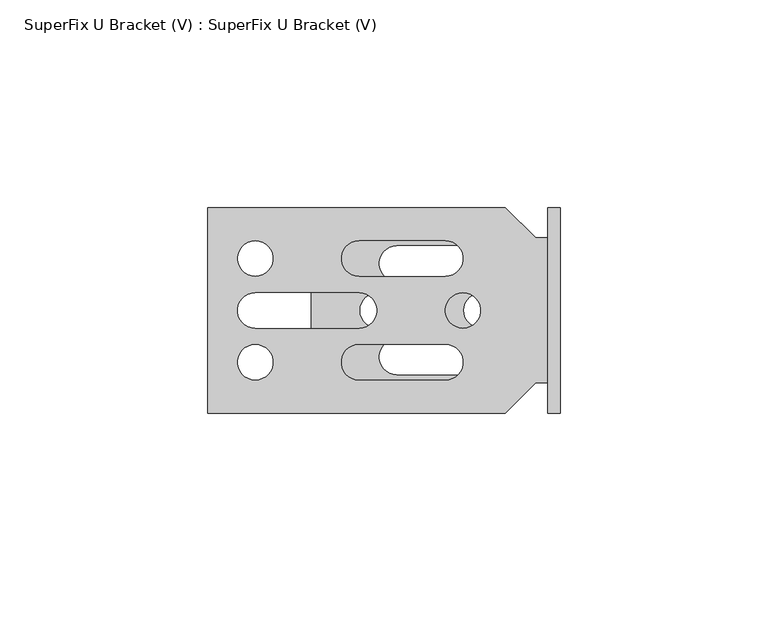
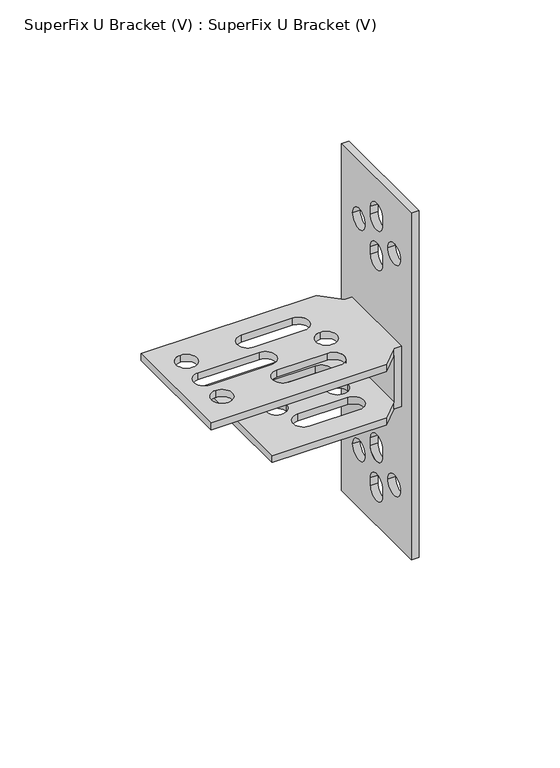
"""IFC4 building model written with IfcOpenShell, lengths in millimetres: valve geometry, SuperFix U Bracket (V) : SuperFix U Bracket (V)."""

import ifcopenshell
import ifcopenshell.guid

model = None  # the IFC model being written
_history = None  # IfcOwnerHistory: only IFC2X3 demands one
_inside = {}  # id of a spatial element -> (the spatial element, [elements in it])
_under = {}  # id of a project, library or spatial element -> (it, [spatial elements below it])
_declared = {}  # id of a project -> (the project, [libraries it declares])
_typed = {}  # id of a type object -> (the type object, [elements of that type])
_made_of = {}  # id of a material, layer set ... -> (it, [elements and type objects made of it])


def new_model(schema):
    """Start an empty IFC model of exactly this schema.

    Asked for "IFC4X3", IfcOpenShell would pick the latest addendum, in which some entities
    have other attributes; the version numbers below select the first issue.
    IFC2X3 requires an IfcOwnerHistory on every rooted entity: one is made here for all.
    """
    global model, _history
    if schema == "IFC4X3":
        model = ifcopenshell.file(schema_version=(4, 3, 0, 0))
    else:
        model = ifcopenshell.file(schema=schema)
    _inside.clear()
    _under.clear()
    _declared.clear()
    _typed.clear()
    _made_of.clear()
    _history = None
    if model.schema == "IFC2X3":
        org = make("IfcOrganization", Name="unknown")
        user = make(
            "IfcPersonAndOrganization",
            ThePerson=make("IfcPerson", FamilyName="unknown"),
            TheOrganization=org,
        )
        app = make(
            "IfcApplication",
            ApplicationDeveloper=org,
            Version="unknown",
            ApplicationFullName="unknown",
            ApplicationIdentifier="unknown",
        )
        _history = make(
            "IfcOwnerHistory",
            OwningUser=user,
            OwningApplication=app,
            ChangeAction="ADDED",
            CreationDate=0,
        )
    return model


def make(cls, **values):
    """One entity of the class cls with the attributes given. An attribute that is None is left unset."""
    return model.create_entity(
        cls, **{name: value for name, value in values.items() if value is not None}
    )


def rooted(cls, **values):
    """An entity with a GlobalId (a new one), such as an element, a storey or a relation."""
    return make(cls, GlobalId=ifcopenshell.guid.new(), OwnerHistory=_history, **values)


def si_unit(unit_type, name, prefix=None):
    """IfcSIUnit, for example si_unit("LENGTHUNIT", "METRE", prefix="MILLI")."""
    return make("IfcSIUnit", UnitType=unit_type, Prefix=prefix, Name=name)


def assignment(units):
    """IfcUnitAssignment: the units of a project."""
    return None if units is None else make("IfcUnitAssignment", Units=units)


def point(xyz):
    """IfcCartesianPoint."""
    return None if xyz is None else make("IfcCartesianPoint", Coordinates=xyz)


def direction(xyz):
    """IfcDirection."""
    return None if xyz is None else make("IfcDirection", DirectionRatios=xyz)


def frame(location, z_axis=None, x_axis=None):
    """IfcAxis2Placement3D, a coordinate frame: its origin and axes. An axis left out is left unset."""
    return make(
        "IfcAxis2Placement3D",
        Location=point(location),
        Axis=direction(z_axis),
        RefDirection=direction(x_axis),
    )


def frame_2d(location, x_axis=None):
    """IfcAxis2Placement2D, a coordinate frame in the plane: its origin and x axis."""
    return make(
        "IfcAxis2Placement2D", Location=point(location), RefDirection=direction(x_axis)
    )


def origin():
    """The frame at (0, 0, 0) with its axes left unset."""
    return frame((0.0, 0.0, 0.0))


def place(relative_to, where):
    """IfcLocalPlacement: puts the frame where relative to a parent placement (None: the world)."""
    return make(
        "IfcLocalPlacement", PlacementRelTo=relative_to, RelativePlacement=where
    )


def context(
    kind, dimensions, precision=None, world=None, true_north=None, identifier=None
):
    """IfcGeometricRepresentationContext, for example the 3D "Model" context."""
    return make(
        "IfcGeometricRepresentationContext",
        ContextIdentifier=identifier,
        ContextType=kind,
        CoordinateSpaceDimension=dimensions,
        Precision=precision,
        WorldCoordinateSystem=world,
        TrueNorth=true_north,
    )


def project(units=None, contexts=None):
    """IfcProject with its units and contexts."""
    return rooted(
        "IfcProject",
        Name="project",
        RepresentationContexts=contexts,
        UnitsInContext=assignment(units),
    )


def spatial(cls, under=None, at=None, **own):
    """A site, building, storey or space (cls), placed at a placement, below another one or the project."""
    s = rooted(cls, ObjectPlacement=at, **own)
    if under is not None:
        _under.setdefault(under.id(), (under, []))[1].append(s)
    return s


def polyline(points):
    """IfcPolyline through the points."""
    return make("IfcPolyline", Points=[point(p) for p in points])


def circle_curve(where, radius):
    """IfcCircle in the frame where."""
    return make("IfcCircle", Position=where, Radius=radius)


def trimmed(basis, trim1, trim2, sense, master):
    """IfcTrimmedCurve: the piece of a basis curve between two trims."""
    return make(
        "IfcTrimmedCurve",
        BasisCurve=basis,
        Trim1=trim1,
        Trim2=trim2,
        SenseAgreement=sense,
        MasterRepresentation=master,
    )


def segment(curve, same_sense, transition):
    """IfcCompositeCurveSegment."""
    return make(
        "IfcCompositeCurveSegment",
        Transition=transition,
        SameSense=same_sense,
        ParentCurve=curve,
    )


def composite_curve(segments, self_intersect=None):
    """IfcCompositeCurve: segments joined end to end."""
    return make("IfcCompositeCurve", Segments=segments, SelfIntersect=self_intersect)


def outline(outer, holes=None, kind="AREA"):
    """IfcArbitraryClosedProfileDef: a profile drawn as a closed curve; with holes, ...WithVoids."""
    if holes is None:
        return make("IfcArbitraryClosedProfileDef", ProfileType=kind, OuterCurve=outer)
    return make(
        "IfcArbitraryProfileDefWithVoids",
        ProfileType=kind,
        OuterCurve=outer,
        InnerCurves=holes,
    )


def extrude(swept, where, along, depth):
    """IfcExtrudedAreaSolid: the profile swept, set in the frame where, extruded along a direction by depth."""
    return make(
        "IfcExtrudedAreaSolid",
        SweptArea=swept,
        Position=where,
        ExtrudedDirection=direction(along),
        Depth=depth,
    )


def shape(context_of_items, identifier, shape_type, items):
    """IfcShapeRepresentation: the items that make up one representation, for example the "Body"."""
    return make(
        "IfcShapeRepresentation",
        ContextOfItems=context_of_items,
        RepresentationIdentifier=identifier,
        RepresentationType=shape_type,
        Items=items,
    )


def source(mapping_origin, context_of_items, identifier, shape_type, items):
    """IfcRepresentationMap: a shape defined once, which mapped items show again and again."""
    return make(
        "IfcRepresentationMap",
        MappingOrigin=mapping_origin,
        MappedRepresentation=shape(context_of_items, identifier, shape_type, items),
    )


def transform(
    local_origin,
    x_axis=None,
    y_axis=None,
    z_axis=None,
    scale=None,
    scale2=None,
    scale3=None,
    uniform=True,
):
    """IfcCartesianTransformationOperator3D, or its non-uniform kind. x_axis, y_axis, z_axis: its Axis1, 2, 3."""
    if uniform:
        return make(
            "IfcCartesianTransformationOperator3D",
            Axis1=direction(x_axis),
            Axis2=direction(y_axis),
            LocalOrigin=point(local_origin),
            Scale=scale,
            Axis3=direction(z_axis),
        )
    return make(
        "IfcCartesianTransformationOperator3DnonUniform",
        Axis1=direction(x_axis),
        Axis2=direction(y_axis),
        LocalOrigin=point(local_origin),
        Scale=scale,
        Axis3=direction(z_axis),
        Scale2=scale2,
        Scale3=scale3,
    )


def mapped(mapping_source, mapping_target):
    """IfcMappedItem: shows the shape of a source again, moved by a transform."""
    return make(
        "IfcMappedItem", MappingSource=mapping_source, MappingTarget=mapping_target
    )


def made_of(thing, what):
    """Note that an element or type object is made of a material, layer set ...; save() writes the relation."""
    if what is not None:
        _made_of.setdefault(what.id(), (what, []))[1].append(thing)
    return thing


def element(
    cls,
    number,
    at=None,
    inside=None,
    cuts=None,
    type_object=None,
    material=None,
    context=None,
    identifier="Body",
    shape_type=None,
    held_by="IfcProductDefinitionShape",
    body=None,
    shapes=None,
    **own,
):
    """One element of the class cls, such as IfcWall. Its Tag is "e" and its number.

    at: its placement. inside: the storey or other place that contains it. cuts: it is an
    opening in that element (IfcRelVoidsElement). A single representation is given by context,
    identifier, shape_type and body (its items); several are given by shapes. held_by: the class
    of the entity that holds the representations. save() writes the other relations.
    """
    e = rooted(cls, Tag="e%d" % number, ObjectPlacement=at, **own)
    if body is not None:
        shapes = [shape(context, identifier, shape_type, body)]
    if shapes is not None:
        e.Representation = make(held_by, Representations=shapes)
    if inside is not None:
        _inside.setdefault(inside.id(), (inside, []))[1].append(e)
    if cuts is not None:
        rooted(
            "IfcRelVoidsElement", RelatingBuildingElement=cuts, RelatedOpeningElement=e
        )
    if type_object is not None:
        _typed.setdefault(type_object.id(), (type_object, []))[1].append(e)
    return made_of(e, material)


def aggregate(whole, parts):
    """IfcRelAggregates: a whole, such as a stair, and the parts it consists of."""
    return rooted("IfcRelAggregates", RelatingObject=whole, RelatedObjects=parts)


def save(model, path):
    """Write the relations noted so far, then the file.

    IfcRelAggregates (storeys below a building ...), IfcRelContainedInSpatialStructure (elements
    in a storey), IfcRelDefinesByType, IfcRelAssociatesMaterial and IfcRelDeclares: one each for
    every whole, place, type object, material and project.
    """
    for whole, parts in _under.values():
        aggregate(whole, parts)
    for where, things in _inside.values():
        rooted(
            "IfcRelContainedInSpatialStructure",
            RelatedElements=things,
            RelatingStructure=where,
        )
    for kind, things in _typed.values():
        rooted("IfcRelDefinesByType", RelatedObjects=things, RelatingType=kind)
    for what, things in _made_of.values():
        rooted("IfcRelAssociatesMaterial", RelatedObjects=things, RelatingMaterial=what)
    for by, libraries in _declared.values():
        rooted("IfcRelDeclares", RelatingContext=by, RelatedDefinitions=libraries)
    model.write(path)


def plane_surface(at):
    """IfcPlane: the flat surface through the origin of the frame at, square to its z axis."""
    return make("IfcPlane", Position=at)


def revolved_surface(curve, axis_point, axis_direction):
    """IfcSurfaceOfRevolution: the curve turned about the line through axis_point along axis_direction."""
    return make(
        "IfcSurfaceOfRevolution",
        SweptCurve=make("IfcArbitraryOpenProfileDef", ProfileType="CURVE", Curve=curve),
        AxisPosition=make("IfcAxis1Placement", Location=point(axis_point), Axis=direction(axis_direction)),
    )


def advanced_brep(points, edges, surfaces, faces):
    """IfcAdvancedBrep: a solid bounded by faces that lie on surfaces and meet in shared edges.

    An edge is (start, end): straight between two places in points (the first is 0);
    or (start, end, curve); or (start, end, curve, False) where it runs against its curve.
    A face is (place in surfaces, loops), or (place, loops, False) where it looks against
    its surface's normal. A loop lists edges by number (the first is 1), with a minus sign
    where the edge is run from its end to its start. The first loop is the outer one.
    """
    corners = [point(p) for p in points]
    vertices = [make("IfcVertexPoint", VertexGeometry=c) for c in corners]
    made = []
    for start, end, *more in edges:
        made.append(
            make(
                "IfcEdgeCurve",
                EdgeStart=vertices[start],
                EdgeEnd=vertices[end],
                EdgeGeometry=more[0] if more else make("IfcPolyline", Points=[corners[start], corners[end]]),
                SameSense=more[1] if len(more) > 1 else True,
            )
        )
    hull = []
    for where, loops, *sense in faces:
        bounds = []
        for j, loop in enumerate(loops):
            ring = [make("IfcOrientedEdge", EdgeElement=made[abs(k) - 1], Orientation=k > 0) for k in loop]
            bounds.append(
                make(
                    "IfcFaceOuterBound" if j == 0 else "IfcFaceBound",
                    Bound=make("IfcEdgeLoop", EdgeList=ring),
                    Orientation=True,
                )
            )
        hull.append(make("IfcAdvancedFace", Bounds=bounds, FaceSurface=surfaces[where], SameSense=sense[0] if sense else True))
    return make("IfcAdvancedBrep", Outer=make("IfcClosedShell", CfsFaces=hull))


def superfix_u_bracket_v_superfix_u_bracket_v_d2fbcba1(model_context):
    return source(origin(), model_context, "Body", "SolidModel", [
        advanced_brep(
        [(-60.0, 24.75, 3.0), (-13.2769513, 24.75, 3.0), (-13.2769513, 24.75, 0.0), (-60.0, 24.75, 0.0), (-85.0, 24.75, 26.0), (-13.2769513, 24.75, 26.0), (-13.2769513, 24.75, 23.0), (-85.0, 24.75, 23.0), (-85.0, -24.75, 23.0), (-13.2769513, -24.75, 23.0), (-13.2769513, -24.75, 26.0), (-85.0, -24.75, 26.0), (-60.0, -24.75, 0.0), (-13.2769513, -24.75, 0.0), (-13.2769513, -24.75, 3.0), (-60.0, -24.75, 3.0), (-6.0, 17.4730487, 23.0), (-6.0, -17.4601422, 23.0), (-23.5, 4.25, 23.0), (-23.5, -4.25, 23.0), (-73.5, -8.25, 23.0), (-73.5, -16.75, 23.0), (-73.5, 16.75, 23.0), (-73.5, 8.25, 23.0), (-27.7293627, -16.7623453, 23.0), (-27.7293627, -8.2417698, 23.0), (-48.5, -8.2417698, 23.0), (-48.5, -16.7623453, 23.0), (-27.7293627, 8.2376547, 23.0), (-27.7293627, 16.7582302, 23.0), (-48.5, 16.7582302, 23.0), (-48.5, 8.2376547, 23.0), (-48.5, -4.2602877, 23.0), (-48.5, 4.2602877, 23.0), (-73.5, 4.2602877, 23.0), (-73.5, -4.2602877, 23.0), (-5.9870936, -17.4601422, 26.0), (-3.0, -17.4601422, 26.0), (-3.0, 17.4601422, 26.0), (-5.9870936, 17.4601422, 26.0), (-23.5, -4.25, 26.0), (-23.5, 4.25, 26.0), (-73.5, -16.75, 26.0), (-73.5, -8.25, 26.0), (-73.5, 8.25, 26.0), (-73.5, 16.75, 26.0), (-48.5, -16.7623453, 26.0), (-48.5, -8.2417698, 26.0), (-27.7293627, -8.2417698, 26.0), (-27.7293627, -16.7623453, 26.0), (-48.5, 8.2376547, 26.0), (-48.5, 16.7582302, 26.0), (-27.7293627, 16.7582302, 26.0), (-27.7293627, 8.2376547, 26.0), (-73.5, -4.2602877, 26.0), (-73.5, 4.2602877, 26.0), (-48.5, 4.2602877, 26.0), (-48.5, -4.2602877, 26.0), (-3.0, -17.4601422, 0.0), (-3.0, 17.4601422, 0.0), (-5.9870936, 17.4601422, 0.0), (-5.9870936, -17.4601422, 0.0), (-39.7659437, 0.0, 0.0), (-48.2659437, 0.0, 0.0), (-14.7659437, 0.0, 0.0), (-23.2659437, 0.0, 0.0), (-19.0159437, 15.5178015, 0.0), (-39.373508, 15.5178015, 0.0), (-39.373508, 7.0178015, 0.0), (-19.0159437, 7.0178015, 0.0), (-19.0159437, -15.5178015, 0.0), (-19.0159437, -7.0178015, 0.0), (-39.373508, -7.0178015, 0.0), (-39.373508, -15.5178015, 0.0), (-5.9935468, -17.4665954, 3.0), (-6.0, 17.4730487, 3.0), (-48.2659437, 0.0, 3.0), (-39.7659437, 0.0, 3.0), (-23.2659437, 0.0, 3.0), (-14.7659437, 0.0, 3.0), (-19.0159437, 7.0178015, 3.0), (-39.373508, 7.0178015, 3.0), (-39.373508, 15.5178015, 3.0), (-19.0159437, 15.5178015, 3.0), (-39.373508, -15.5178015, 3.0), (-39.373508, -7.0178015, 3.0), (-19.0159437, -7.0178015, 3.0), (-19.0159437, -15.5178015, 3.0)],
        [
            (0, 1),
            (1, 2),
            (2, 3),
            (3, 0),
            (4, 5),
            (5, 6),
            (6, 7),
            (7, 4),
            (8, 9),
            (9, 10),
            (10, 11),
            (11, 8),
            (12, 13),
            (13, 14),
            (14, 15),
            (15, 12),
            (6, 16),
            (16, 17),
            (17, 9),
            (8, 7),
            (18, 19, circle_curve(frame((-23.5, 0.0, 23.0), z_axis=(0.0, 0.0, 1.0), x_axis=(0.0, 1.0, 0.0)), 4.25)),
            (19, 18, circle_curve(frame((-23.5, 0.0, 23.0), z_axis=(0.0, 0.0, 1.0), x_axis=(0.0, 1.0, 0.0)), 4.25)),
            (20, 21, circle_curve(frame((-73.5, -12.5, 23.0), z_axis=(0.0, 0.0, 1.0), x_axis=(0.0, 1.0, 0.0)), 4.25)),
            (21, 20, circle_curve(frame((-73.5, -12.5, 23.0), z_axis=(0.0, 0.0, 1.0), x_axis=(0.0, 1.0, 0.0)), 4.25)),
            (22, 23, circle_curve(frame((-73.5, 12.5, 23.0), z_axis=(0.0, 0.0, 1.0), x_axis=(0.0, 1.0, 0.0)), 4.25)),
            (23, 22, circle_curve(frame((-73.5, 12.5, 23.0), z_axis=(0.0, 0.0, 1.0), x_axis=(0.0, 1.0, 0.0)), 4.25)),
            (24, 25, circle_curve(frame((-27.7293627, -12.5020575, 23.0), z_axis=(0.0, 0.0, 1.0), x_axis=(0.0, 1.0, 0.0)), 4.2602877)),
            (25, 26),
            (26, 27, circle_curve(frame((-48.5, -12.5020575, 23.0), z_axis=(0.0, 0.0, 1.0), x_axis=(0.0, 1.0, 0.0)), 4.2602877)),
            (27, 24),
            (28, 29, circle_curve(frame((-27.7293627, 12.4979425, 23.0), z_axis=(0.0, 0.0, 1.0), x_axis=(0.0, 1.0, 0.0)), 4.2602877)),
            (29, 30),
            (30, 31, circle_curve(frame((-48.5, 12.4979425, 23.0), z_axis=(0.0, 0.0, 1.0), x_axis=(0.0, 1.0, 0.0)), 4.2602877)),
            (31, 28),
            (32, 33, circle_curve(frame((-48.5, 0.0, 23.0), z_axis=(0.0, 0.0, 1.0), x_axis=(0.0, 1.0, 0.0)), 4.2602877)),
            (33, 34),
            (34, 35, circle_curve(frame((-73.5, 0.0, 23.0), z_axis=(0.0, 0.0, 1.0), x_axis=(0.0, 1.0, 0.0)), 4.2602877)),
            (35, 32),
            (11, 4),
            (10, 36),
            (36, 37),
            (37, 38),
            (38, 39),
            (39, 5),
            (40, 41, circle_curve(frame((-23.5, 0.0, 26.0), z_axis=(0.0, 0.0, -1.0), x_axis=(0.0, 1.0, 0.0)), 4.25)),
            (41, 40, circle_curve(frame((-23.5, 0.0, 26.0), z_axis=(0.0, 0.0, -1.0), x_axis=(0.0, 1.0, 0.0)), 4.25)),
            (42, 43, circle_curve(frame((-73.5, -12.5, 26.0), z_axis=(0.0, 0.0, -1.0), x_axis=(0.0, 1.0, 0.0)), 4.25)),
            (43, 42, circle_curve(frame((-73.5, -12.5, 26.0), z_axis=(0.0, 0.0, -1.0), x_axis=(0.0, 1.0, 0.0)), 4.25)),
            (44, 45, circle_curve(frame((-73.5, 12.5, 26.0), z_axis=(0.0, 0.0, -1.0), x_axis=(0.0, 1.0, 0.0)), 4.25)),
            (45, 44, circle_curve(frame((-73.5, 12.5, 26.0), z_axis=(0.0, 0.0, -1.0), x_axis=(0.0, 1.0, 0.0)), 4.25)),
            (46, 47, circle_curve(frame((-48.5, -12.5020575, 26.0), z_axis=(0.0, 0.0, -1.0), x_axis=(0.0, 1.0, 0.0)), 4.2602877)),
            (47, 48),
            (48, 49, circle_curve(frame((-27.7293627, -12.5020575, 26.0), z_axis=(0.0, 0.0, -1.0), x_axis=(0.0, 1.0, 0.0)), 4.2602877)),
            (49, 46),
            (50, 51, circle_curve(frame((-48.5, 12.4979425, 26.0), z_axis=(0.0, 0.0, -1.0), x_axis=(0.0, 1.0, 0.0)), 4.2602877)),
            (51, 52),
            (52, 53, circle_curve(frame((-27.7293627, 12.4979425, 26.0), z_axis=(0.0, 0.0, -1.0), x_axis=(0.0, 1.0, 0.0)), 4.2602877)),
            (53, 50),
            (54, 55, circle_curve(frame((-73.5, 0.0, 26.0), z_axis=(0.0, 0.0, -1.0), x_axis=(0.0, 1.0, 0.0)), 4.2602877)),
            (55, 56),
            (56, 57, circle_curve(frame((-48.5, 0.0, 26.0), z_axis=(0.0, 0.0, -1.0), x_axis=(0.0, 1.0, 0.0)), 4.2602877)),
            (57, 54),
            (37, 58),
            (58, 59),
            (59, 38),
            (2, 60),
            (60, 59),
            (58, 61),
            (61, 13),
            (12, 3),
            (62, 63, circle_curve(frame((-44.0159437, 0.0, 0.0), z_axis=(0.0, 0.0, 1.0), x_axis=(-1.0, 0.0, 0.0)), 4.25)),
            (63, 62, circle_curve(frame((-44.0159437, 0.0, 0.0), z_axis=(0.0, 0.0, 1.0), x_axis=(-1.0, 0.0, 0.0)), 4.25)),
            (64, 65, circle_curve(frame((-19.0159437, 0.0, 0.0), z_axis=(0.0, 0.0, 1.0), x_axis=(-1.0, 0.0, 0.0)), 4.25)),
            (65, 64, circle_curve(frame((-19.0159437, 0.0, 0.0), z_axis=(0.0, 0.0, 1.0), x_axis=(-1.0, 0.0, 0.0)), 4.25)),
            (66, 67),
            (67, 68, circle_curve(frame((-39.373508, 11.2678015, 0.0), z_axis=(0.0, 0.0, 1.0), x_axis=(-1.0, 0.0, 0.0)), 4.25)),
            (68, 69),
            (69, 66, circle_curve(frame((-19.0159437, 11.2678015, 0.0), z_axis=(0.0, 0.0, 1.0), x_axis=(-1.0, 0.0, 0.0)), 4.25)),
            (70, 71, circle_curve(frame((-19.0159437, -11.2678015, 0.0), z_axis=(0.0, 0.0, 1.0), x_axis=(-1.0, 0.0, 0.0)), 4.25)),
            (71, 72),
            (72, 73, circle_curve(frame((-39.373508, -11.2678015, 0.0), z_axis=(0.0, 0.0, 1.0), x_axis=(-1.0, 0.0, 0.0)), 4.25)),
            (73, 70),
            (15, 0),
            (14, 74),
            (74, 75),
            (75, 1),
            (76, 77, circle_curve(frame((-44.0159437, 0.0, 3.0), z_axis=(0.0, 0.0, -1.0), x_axis=(-1.0, 0.0, 0.0)), 4.25)),
            (77, 76, circle_curve(frame((-44.0159437, 0.0, 3.0), z_axis=(0.0, 0.0, -1.0), x_axis=(-1.0, 0.0, 0.0)), 4.25)),
            (78, 79, circle_curve(frame((-19.0159437, 0.0, 3.0), z_axis=(0.0, 0.0, -1.0), x_axis=(-1.0, 0.0, 0.0)), 4.25)),
            (79, 78, circle_curve(frame((-19.0159437, 0.0, 3.0), z_axis=(0.0, 0.0, -1.0), x_axis=(-1.0, 0.0, 0.0)), 4.25)),
            (80, 81),
            (81, 82, circle_curve(frame((-39.373508, 11.2678015, 3.0), z_axis=(0.0, 0.0, -1.0), x_axis=(-1.0, 0.0, 0.0)), 4.25)),
            (82, 83),
            (83, 80, circle_curve(frame((-19.0159437, 11.2678015, 3.0), z_axis=(0.0, 0.0, -1.0), x_axis=(-1.0, 0.0, 0.0)), 4.25)),
            (84, 85, circle_curve(frame((-39.373508, -11.2678015, 3.0), z_axis=(0.0, 0.0, -1.0), x_axis=(-1.0, 0.0, 0.0)), 4.25)),
            (85, 86),
            (86, 87, circle_curve(frame((-19.0159437, -11.2678015, 3.0), z_axis=(0.0, 0.0, -1.0), x_axis=(-1.0, 0.0, 0.0)), 4.25)),
            (87, 84),
            (16, 75),
            (74, 17),
            (41, 18),
            (19, 40),
            (43, 20),
            (21, 42),
            (45, 22),
            (23, 44),
            (49, 24),
            (27, 46),
            (48, 25),
            (47, 26),
            (53, 28),
            (31, 50),
            (52, 29),
            (51, 30),
            (57, 32),
            (35, 54),
            (56, 33),
            (55, 34),
            (74, 61),
            (36, 17),
            (39, 16),
            (75, 60),
            (63, 76),
            (77, 62),
            (65, 78),
            (79, 64),
            (69, 80),
            (83, 66),
            (68, 81),
            (67, 82),
            (73, 84),
            (87, 70),
            (72, 85),
            (71, 86),
        ],
        [
            plane_surface(frame((-85.0, 24.75, 23.0), z_axis=(0.0, 1.0, 0.0), x_axis=(1.0, 0.0, 0.0))),
            plane_surface(frame((-85.0, -24.75, 23.0), z_axis=(0.0, -1.0, 0.0), x_axis=(-1.0, 0.0, 0.0))),
            plane_surface(frame((-6.0, -24.75, 23.0), z_axis=(0.0, 0.0, -1.0), x_axis=(0.0, 1.0, 0.0))),
            plane_surface(frame((-85.0, -24.75, 23.0), z_axis=(-1.0, 0.0, 0.0), x_axis=(0.0, 1.0, 0.0))),
            plane_surface(frame((-85.0, -24.75, 26.0), z_axis=(0.0, 0.0, 1.0), x_axis=(0.0, 1.0, 0.0))),
            plane_surface(frame((-3.0, -24.75, 26.0), z_axis=(1.0, 0.0, 0.0), x_axis=(0.0, 1.0, 0.0))),
            plane_surface(frame((-3.0, -24.75, 0.0), z_axis=(0.0, 0.0, -1.0), x_axis=(0.0, 1.0, 0.0))),
            plane_surface(frame((-60.0, -24.75, 0.0), z_axis=(-1.0, 0.0, 0.0), x_axis=(0.0, 1.0, 0.0))),
            plane_surface(frame((-60.0, -24.75, 3.0), z_axis=(0.0, 0.0, 1.0), x_axis=(0.0, 1.0, 0.0))),
            plane_surface(frame((-6.0, -24.75, 3.0), z_axis=(-1.0, 0.0, 0.0), x_axis=(0.0, 1.0, 0.0))),
            revolved_surface(polyline([(-23.5, 4.25, 23.0), (-23.5, 4.25, 26.0)]), (-23.5, 0.0, 26.0), (0.0, 0.0, -1.0)),
            revolved_surface(polyline([(-73.5, -8.25, 23.0), (-73.5, -8.25, 26.0)]), (-73.5, -12.5, 26.0), (0.0, 0.0, -1.0)),
            revolved_surface(polyline([(-73.5, 16.75, 23.0), (-73.5, 16.75, 26.0)]), (-73.5, 12.5, 26.0), (0.0, 0.0, -1.0)),
            plane_surface(frame((-48.5, -16.7623453, 21.0), z_axis=(0.0, 1.0, 0.0), x_axis=(0.0, 0.0, 1.0))),
            revolved_surface(polyline([(-27.7293627, -8.2417698, 23.0), (-27.7293627, -8.2417698, 26.0)]), (-27.7293627, -12.5020575, 26.0), (0.0, 0.0, -1.0)),
            plane_surface(frame((-27.7293627, -8.2417698, 21.0), z_axis=(0.0, -1.0, 0.0), x_axis=(0.0, 0.0, 1.0))),
            revolved_surface(polyline([(-48.5, -8.2417698, 23.0), (-48.5, -8.2417698, 26.0)]), (-48.5, -12.5020575, 26.0), (0.0, 0.0, -1.0)),
            plane_surface(frame((-48.5, 8.2376547, 21.0), z_axis=(0.0, 1.0, 0.0), x_axis=(0.0, 0.0, 1.0))),
            revolved_surface(polyline([(-27.7293627, 16.7582302, 23.0), (-27.7293627, 16.7582302, 26.0)]), (-27.7293627, 12.4979425, 26.0), (0.0, 0.0, -1.0)),
            plane_surface(frame((-27.7293627, 16.7582302, 21.0), z_axis=(0.0, -1.0, 0.0), x_axis=(0.0, 0.0, 1.0))),
            revolved_surface(polyline([(-48.5, 16.7582302, 23.0), (-48.5, 16.7582302, 26.0)]), (-48.5, 12.4979425, 26.0), (0.0, 0.0, -1.0)),
            plane_surface(frame((-73.5, -4.2602877, 21.0), z_axis=(0.0, 1.0, 0.0), x_axis=(0.0, 0.0, 1.0))),
            revolved_surface(polyline([(-48.5, 4.2602877, 23.0), (-48.5, 4.2602877, 26.0)]), (-48.5, 0.0, 26.0), (0.0, 0.0, -1.0)),
            plane_surface(frame((-48.5, 4.2602877, 21.0), z_axis=(0.0, -1.0, 0.0), x_axis=(0.0, 0.0, 1.0))),
            revolved_surface(polyline([(-73.5, 4.2602877, 23.0), (-73.5, 4.2602877, 26.0)]), (-73.5, 0.0, 26.0), (0.0, 0.0, -1.0)),
            plane_surface(frame((-5.9870936, -17.4601422, 26.0), z_axis=(0.0, -1.0, 0.0), x_axis=(0.0, 0.0, -1.0))),
            plane_surface(frame((-13.2769513, -24.75, 26.0), z_axis=(0.7071067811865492, -0.7071067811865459, 0.0), x_axis=(0.0, 0.0, -1.0))),
            plane_surface(frame((-5.9870936, 17.4601422, 26.0), z_axis=(0.7071067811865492, 0.7071067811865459, 0.0), x_axis=(0.0, 0.0, -1.0))),
            plane_surface(frame((-2.9870936, 17.4601422, 26.0), z_axis=(0.0, 1.0, 0.0), x_axis=(0.0, 0.0, -1.0))),
            revolved_surface(polyline([(-48.2659437, 0.0, 3.0), (-48.2659437, 0.0, 0.0)]), (-44.0159437, 0.0, 0.0), (0.0, 0.0, 1.0)),
            revolved_surface(polyline([(-23.2659437, 0.0, 3.0), (-23.2659437, 0.0, 0.0)]), (-19.0159437, 0.0, 0.0), (0.0, 0.0, 1.0)),
            revolved_surface(polyline([(-23.2659437, 11.2678015, 3.0), (-23.2659437, 11.2678015, 0.0)]), (-19.0159437, 11.2678015, 0.0), (0.0, 0.0, 1.0)),
            plane_surface(frame((-19.0159437, 7.0178015, 5.0), z_axis=(0.0, 1.0, 0.0), x_axis=(0.0, 0.0, -1.0))),
            revolved_surface(polyline([(-43.623508, 11.2678015, 3.0), (-43.623508, 11.2678015, 0.0)]), (-39.373508, 11.2678015, 0.0), (0.0, 0.0, 1.0)),
            plane_surface(frame((-39.373508, 15.5178015, 5.0), z_axis=(0.0, -1.0, 0.0), x_axis=(0.0, 0.0, -1.0))),
            plane_surface(frame((-19.0159437, -15.5178015, 5.0), z_axis=(0.0, 1.0, 0.0), x_axis=(0.0, 0.0, -1.0))),
            revolved_surface(polyline([(-43.623508, -11.2678015, 3.0), (-43.623508, -11.2678015, 0.0)]), (-39.373508, -11.2678015, 0.0), (0.0, 0.0, 1.0)),
            plane_surface(frame((-39.373508, -7.0178015, 5.0), z_axis=(0.0, -1.0, 0.0), x_axis=(0.0, 0.0, -1.0))),
            revolved_surface(polyline([(-23.2659437, -11.2678015, 3.0), (-23.2659437, -11.2678015, 0.0)]), (-19.0159437, -11.2678015, 0.0), (0.0, 0.0, 1.0)),
        ],
        [
            (0, [[1, 2, 3, 4]]),
            (0, [[5, 6, 7, 8]]),
            (1, [[9, 10, 11, 12]]),
            (1, [[13, 14, 15, 16]]),
            (2, [[-7, 17, 18, 19, -9, 20], [21, 22], [23, 24], [25, 26], [27, 28, 29, 30], [31, 32, 33, 34], [35, 36, 37, 38]]),
            (3, [[-20, -12, 39, -8]]),
            (4, [[-11, 40, 41, 42, 43, 44, -5, -39], [45, 46], [47, 48], [49, 50], [51, 52, 53, 54], [55, 56, 57, 58], [59, 60, 61, 62]]),
            (5, [[63, 64, 65, -42]]),
            (6, [[-3, 66, 67, -64, 68, 69, -13, 70], [71, 72], [73, 74], [75, 76, 77, 78], [79, 80, 81, 82]]),
            (7, [[-70, -16, 83, -4]]),
            (8, [[-15, 84, 85, 86, -1, -83], [87, 88], [89, 90], [91, 92, 93, 94], [95, 96, 97, 98]]),
            (9, [[99, -85, 100, -18]]),
            (10, [[-46, 101, -22, 102]]),
            (10, [[-21, -101, -45, -102]]),
            (11, [[-48, 103, -24, 104]]),
            (11, [[-23, -103, -47, -104]]),
            (12, [[-50, 105, -26, 106]]),
            (12, [[-25, -105, -49, -106]]),
            (13, [[-54, 107, -30, 108]]),
            (14, [[-53, 109, -27, -107]]),
            (15, [[-52, 110, -28, -109]]),
            (16, [[-29, -110, -51, -108]]),
            (17, [[-58, 111, -34, 112]]),
            (18, [[-57, 113, -31, -111]]),
            (19, [[-56, 114, -32, -113]]),
            (20, [[-33, -114, -55, -112]]),
            (21, [[-62, 115, -38, 116]]),
            (22, [[-61, 117, -35, -115]]),
            (23, [[-60, 118, -36, -117]]),
            (24, [[-37, -118, -59, -116]]),
            (25, [[-100, 119, -68, -63, -41, 120]]),
            (26, [[-40, -10, -19, -120]]),
            (26, [[-84, -14, -69, -119]]),
            (27, [[-17, -6, -44, 121]]),
            (27, [[-66, -2, -86, 122]]),
            (28, [[-43, -65, -67, -122, -99, -121]]),
            (29, [[-72, 123, -88, 124]]),
            (29, [[-87, -123, -71, -124]]),
            (30, [[-74, 125, -90, 126]]),
            (30, [[-89, -125, -73, -126]]),
            (31, [[-78, 127, -94, 128]]),
            (32, [[-77, 129, -91, -127]]),
            (33, [[-76, 130, -92, -129]]),
            (34, [[-93, -130, -75, -128]]),
            (35, [[-82, 131, -98, 132]]),
            (36, [[-81, 133, -95, -131]]),
            (37, [[-80, 134, -96, -133]]),
            (38, [[-97, -134, -79, -132]]),
        ],
    ),
        extrude(outline(polyline([(24.75, 88.0), (24.75, -62.0), (-24.75, -62.0), (-24.75, 88.0), (24.75, 88.0)]), holes=[composite_curve([segment(trimmed(circle_curve(frame_2d((-12.5, -37.0)), 4.4), [point((-8.1, -37.0))], [point((-16.9, -37.0))], True, "CARTESIAN"), True, "CONTINUOUS"), segment(trimmed(circle_curve(frame_2d((-12.5, -37.0)), 4.4), [point((-16.9, -37.0))], [point((-8.1, -37.0))], True, "CARTESIAN"), True, "CONTINUOUS")], self_intersect=False), composite_curve([segment(trimmed(circle_curve(frame_2d((12.5, -37.0)), 4.4), [point((16.9, -37.0))], [point((8.1, -37.0))], True, "CARTESIAN"), True, "CONTINUOUS"), segment(trimmed(circle_curve(frame_2d((12.5, -37.0)), 4.4), [point((8.1, -37.0))], [point((16.9, -37.0))], True, "CARTESIAN"), True, "CONTINUOUS")], self_intersect=False), composite_curve([segment(trimmed(circle_curve(frame_2d((12.5, 63.0)), 4.4), [point((16.9, 63.0))], [point((8.1, 63.0))], True, "CARTESIAN"), True, "CONTINUOUS"), segment(trimmed(circle_curve(frame_2d((12.5, 63.0)), 4.4), [point((8.1, 63.0))], [point((16.9, 63.0))], True, "CARTESIAN"), True, "CONTINUOUS")], self_intersect=False), composite_curve([segment(trimmed(circle_curve(frame_2d((-12.5, 63.0)), 4.4), [point((-8.1, 63.0))], [point((-16.9, 63.0))], True, "CARTESIAN"), True, "CONTINUOUS"), segment(trimmed(circle_curve(frame_2d((-12.5, 63.0)), 4.4), [point((-16.9, 63.0))], [point((-8.1, 63.0))], True, "CARTESIAN"), True, "CONTINUOUS")], self_intersect=False), composite_curve([segment(trimmed(circle_curve(frame_2d((0.0, -27.0)), 4.2629479), [point((4.2525926, -26.7030464))], [point((-4.2525926, -26.7030464))], True, "CARTESIAN"), True, "CONTINUOUS"), segment(polyline([(-4.2525926, -26.7030464), (-4.2525926, -30.0)]), True, "CONTINUOUS"), segment(trimmed(circle_curve(frame_2d((0.0, -30.0)), 4.2525926), [point((-4.2525926, -30.0))], [point((4.2525926, -30.0))], True, "CARTESIAN"), True, "CONTINUOUS"), segment(polyline([(4.2525926, -30.0), (4.2525926, -26.7030464)]), True, "CONTINUOUS")], self_intersect=False), composite_curve([segment(polyline([(4.2525926, -47.2969536), (4.2525926, -44.0)]), True, "CONTINUOUS"), segment(trimmed(circle_curve(frame_2d((0.0, -44.0)), 4.2525926), [point((4.2525926, -44.0))], [point((-4.2525926, -44.0))], True, "CARTESIAN"), True, "CONTINUOUS"), segment(polyline([(-4.2525926, -44.0), (-4.2525926, -47.2969536)]), True, "CONTINUOUS"), segment(trimmed(circle_curve(frame_2d((0.0, -47.0)), 4.2629479), [point((-4.2525926, -47.2969536))], [point((4.2525926, -47.2969536))], True, "CARTESIAN"), True, "CONTINUOUS")], self_intersect=False), composite_curve([segment(polyline([(4.2525926, 52.7030464), (4.2525926, 56.0)]), True, "CONTINUOUS"), segment(trimmed(circle_curve(frame_2d((0.0, 56.0)), 4.2525926), [point((4.2525926, 56.0))], [point((-4.2525926, 56.0))], True, "CARTESIAN"), True, "CONTINUOUS"), segment(polyline([(-4.2525926, 56.0), (-4.2525926, 52.7030464)]), True, "CONTINUOUS"), segment(trimmed(circle_curve(frame_2d((0.0, 53.0)), 4.2629479), [point((-4.2525926, 52.7030464))], [point((4.2525926, 52.7030464))], True, "CARTESIAN"), True, "CONTINUOUS")], self_intersect=False), composite_curve([segment(trimmed(circle_curve(frame_2d((0.0, 73.0)), 4.2629479), [point((4.2525926, 73.2969536))], [point((-4.2525926, 73.2969536))], True, "CARTESIAN"), True, "CONTINUOUS"), segment(polyline([(-4.2525926, 73.2969536), (-4.2525926, 70.0)]), True, "CONTINUOUS"), segment(trimmed(circle_curve(frame_2d((0.0, 70.0)), 4.2525926), [point((-4.2525926, 70.0))], [point((4.2525926, 70.0))], True, "CARTESIAN"), True, "CONTINUOUS"), segment(polyline([(4.2525926, 70.0), (4.2525926, 73.2969536)]), True, "CONTINUOUS")], self_intersect=False)]), frame((-3.0, 0.0, 0.0), z_axis=(1.0, 0.0, 0.0), x_axis=(0.0, 1.0, 0.0)), (0.0, 0.0, 1.0), 3.0),
    ])


if __name__ == "__main__":
    model = new_model("IFC4")
    model_context = context("Model", 3, world=origin())
    ifc_project = project(units=[si_unit("LENGTHUNIT", "METRE", prefix="MILLI")], contexts=[model_context])
    site = spatial("IfcSite", under=ifc_project)
    building = spatial("IfcBuilding", under=site)
    placement = place(None, origin())
    superfix_u_bracket_v_superfix_u_bracket_v_shape = superfix_u_bracket_v_superfix_u_bracket_v_d2fbcba1(model_context)
    element("IfcValve", 1, ObjectType="SuperFix U Bracket (V) : SuperFix U Bracket (V)", at=placement, inside=building, context=model_context, shape_type="MappedRepresentation", body=[
        mapped(superfix_u_bracket_v_superfix_u_bracket_v_shape, transform((0.0, 0.0, 0.0), x_axis=(1.0, 0.0, 0.0), y_axis=(0.0, 1.0, 0.0), z_axis=(0.0, 0.0, 1.0))),
    ])
    save(model, "model.ifc")
